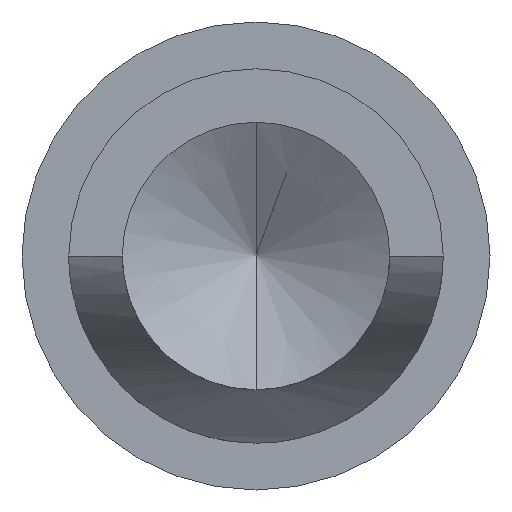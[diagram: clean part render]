
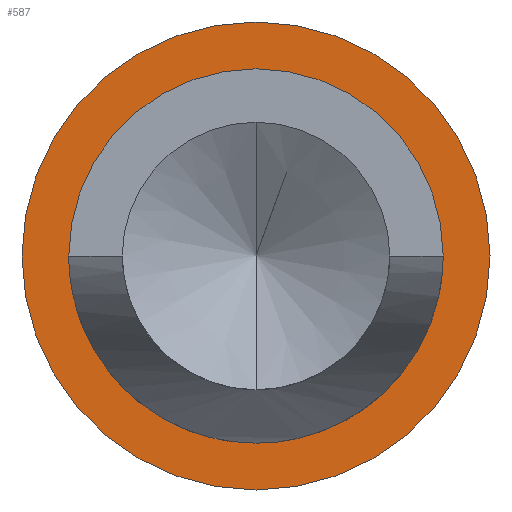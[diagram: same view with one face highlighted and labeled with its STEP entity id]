
A CAD part, front view. The second image highlights one B-rep face of the part: STEP entity #587.
In plain terms, the highlighted planar face has unit normal (0, -1, 0).
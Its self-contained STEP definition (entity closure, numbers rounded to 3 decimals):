
#141=CARTESIAN_POINT('',(0.,-13.,0.));
#142=DIRECTION('',(0.,1.,0.));
#143=DIRECTION('',(0.,0.,1.));
#144=AXIS2_PLACEMENT_3D('',#141,#142,#143);
#146=CARTESIAN_POINT('',(0.,-13.,0.));
#147=DIRECTION('',(0.,-1.,0.));
#148=DIRECTION('',(0.,0.,1.));
#149=AXIS2_PLACEMENT_3D('',#146,#147,#148);
#167=CARTESIAN_POINT('',(0.,-13.,0.));
#168=DIRECTION('',(0.,-1.,0.));
#169=DIRECTION('',(0.,0.,1.));
#170=AXIS2_PLACEMENT_3D('',#167,#168,#169);
#210=CARTESIAN_POINT('',(0.,-13.,0.));
#211=DIRECTION('',(0.,1.,0.));
#212=DIRECTION('',(0.,0.,1.));
#213=AXIS2_PLACEMENT_3D('',#210,#211,#212);
#286=CARTESIAN_POINT('',(0.,-13.,1.75));
#288=VERTEX_POINT('',#286);
#289=CARTESIAN_POINT('',(0.,-13.,1.4));
#291=VERTEX_POINT('',#289);
#316=CARTESIAN_POINT('',(0.,-13.,-1.75));
#318=VERTEX_POINT('',#316);
#335=CARTESIAN_POINT('',(0.,-13.,-1.4));
#336=VERTEX_POINT('',#335);
#572=CARTESIAN_POINT('',(0.,-13.,0.));
#573=DIRECTION('',(0.,-1.,0.));
#574=DIRECTION('',(0.,0.,1.));
#575=AXIS2_PLACEMENT_3D('',#572,#573,#574);
#576=PLANE('',#575);
#577=ORIENTED_EDGE('',*,*,#554,.T.);
#578=ORIENTED_EDGE('',*,*,#565,.F.);
#579=EDGE_LOOP('',(#577,#578));
#580=FACE_OUTER_BOUND('',#579,.F.);
#582=ORIENTED_EDGE('',*,*,#581,.T.);
#584=ORIENTED_EDGE('',*,*,#583,.F.);
#585=EDGE_LOOP('',(#582,#584));
#586=FACE_BOUND('',#585,.F.);
#587=ADVANCED_FACE('',(#580,#586),#576,.T.);
#145=CIRCLE('',#144,1.75);
#150=CIRCLE('',#149,1.75);
#171=CIRCLE('',#170,1.4);
#214=CIRCLE('',#213,1.4);
#554=EDGE_CURVE('',#288,#318,#145,.T.);
#565=EDGE_CURVE('',#288,#318,#150,.T.);
#581=EDGE_CURVE('',#291,#336,#171,.T.);
#583=EDGE_CURVE('',#291,#336,#214,.T.);
